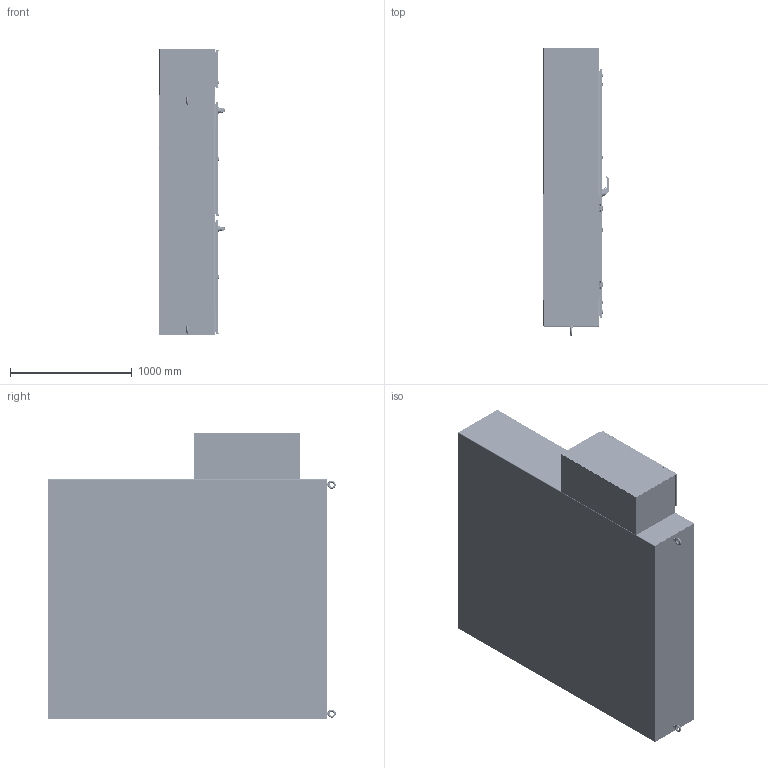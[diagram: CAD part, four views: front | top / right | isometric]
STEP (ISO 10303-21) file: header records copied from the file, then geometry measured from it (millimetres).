
FILE_DESCRIPTION((''),'2;1');
FILE_NAME('MODEL-426_ASM','2024-10-09T09:11:45',('joshi'),('SAGINAW CONTROL & ENGINEERING'),'CREO PARAMETRIC BY PTC INC, 2021284','CREO PARAMETRIC BY PTC INC, 2021284','');
FILE_SCHEMA(('AUTOMOTIVE_DESIGN { 1 0 10303 214 1 1 1 1 }'));
Length unit declared in the file: inch
Products named in the file (186): MODEL-426-TP; MODEL-426-R-SD; MODEL-426-L-SD; MODEL-426-BTM; MODEL-426-BCK; MODEL-426-SM-BRC; MODEL-426-M-DR; 100837; 111267; 100882; 100957_SCREW_MTG; 100957_PADLOCK_CATCH; 100957_SCREW_LARGE; 100957_INSERT_SHAFT; 100957_INSERT_PH; 100957_GASKET; 100957_O-RING; 100957_BASE; 100957_SPRING; 100957_HANDLE; 100957_CAM_SHAFT; 100957_HANDLE_ASM; 100957_CAM_ADAPTER; 100957_EARTH_NUT; 100957_FLANGE_NUT; 100957_CAM_NUT; 100957_ASM; 102237; 100030; 102237_ASM; MODEL-426-ROD-UPR-MD; 128146; 128145; 128144; 102482; MODEL-426-ROD-UPR-MD_ASM; 128143; 112504; MODEL-426-ROD-LWR-MD; MODEL-426-ROD-LWR-MD_ASM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
Assembly tree (395 placements, depth 5):
  MODEL-426_ASM
    MODEL-426-TP
    MODEL-426-R-SD
    MODEL-426-L-SD
    MODEL-426-BTM
    MODEL-426-BCK
    MODEL-426-SM-BRC  x2
    MODEL-426-M-DOOR-ASSY_ASM
      MODEL-426-M-DR
      100837  x7
      111267
      100882  x12
      100957_ASM
        100957_SCREW_MTG
        100957_PADLOCK_CATCH
        100957_SCREW_LARGE  x2
        100957_INSERT_SHAFT
        100957_INSERT_PH
        100957_GASKET
        100957_O-RING
        100957_BASE
        100957_SPRING
        100957_HANDLE_ASM
          100957_HANDLE
          100957_CAM_SHAFT
        100957_CAM_ADAPTER
        100957_EARTH_NUT
        100957_FLANGE_NUT
        100957_CAM_NUT
      102237_ASM
        102237
        100030  x2
      MODEL-426-ROD-UPR-MD_ASM
        MODEL-426-ROD-UPR-MD
        128146
        128145
        128144
        102482  x2
      128143  x2
      112504  x2
      MODEL-426-ROD-LWR-MD_ASM
        MODEL-426-ROD-LWR-MD
        128146
        128145
        128144
        102482  x2
      MODEL-426-PR-GSKT-M
      113885_ASM  x2
        113885_SHAFT
        113885_INSERT
        113885_CAM_30MM
        113885_NUT
        113885_SCREW
      128258_ASM  x4
        128258
      126395  x4
      102483  x4
      101383_ASM  x4
        101383
        101383-STUD
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Bounding box: 535.27 x 2360.8 x 2355.85 mm (x, y, z)
Volume: 58309050.5 mm3; surface area: 43061370.4 mm2
Topology: 445 solids, 445 shells, 36070 faces, 91443 edges, 56393 vertices
Faces by surface type: plane 13029, cylinder 9130, bspline 8086, torus 2727, cone 1727, sphere 1046, extrusion 325
Entity records: 780207 total; most frequent: CARTESIAN_POINT 317432, ORIENTED_EDGE 68268, DIRECTION 65715, PRESENTATION_STYLE_ASSIGNMENT 35381, STYLED_ITEM 34657, CURVE_STYLE 34134, EDGE_CURVE 34134, AXIS2_PLACEMENT_3D 24493
